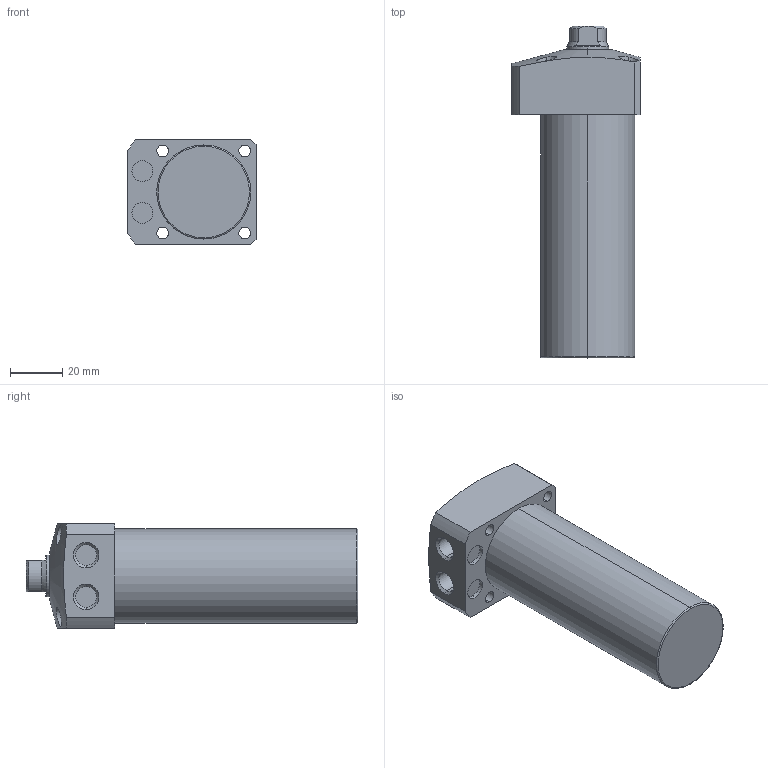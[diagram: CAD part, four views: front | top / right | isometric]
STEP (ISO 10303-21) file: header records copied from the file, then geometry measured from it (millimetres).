
FILE_DESCRIPTION (( 'STEP AP203' ), '1' );
FILE_NAME ('CLL-036CA-070.STEP', '2019-12-20T09:07:11', ( '' ), ( '' ), 'SwSTEP 2.0', 'SolidWorks 2015', '' );
FILE_SCHEMA (( 'CONFIG_CONTROL_DESIGN' ));
Length unit declared in the file: millimetre
Products named in the file (1): CLL-036CA-070
Bounding box: 49 x 127 x 40 mm (x, y, z)
Volume: 136104.9 mm3; surface area: 20693.5 mm2
Topology: 1 solids, 1 shells, 72 faces, 166 edges, 105 vertices
Faces by surface type: cylinder 34, plane 22, cone 14, torus 2
Entity records: 2453 total; most frequent: CARTESIAN_POINT 708, DIRECTION 364, ORIENTED_EDGE 328, EDGE_CURVE 164, AXIS2_PLACEMENT_3D 151, VERTEX_POINT 105, EDGE_LOOP 91, CIRCLE 78
